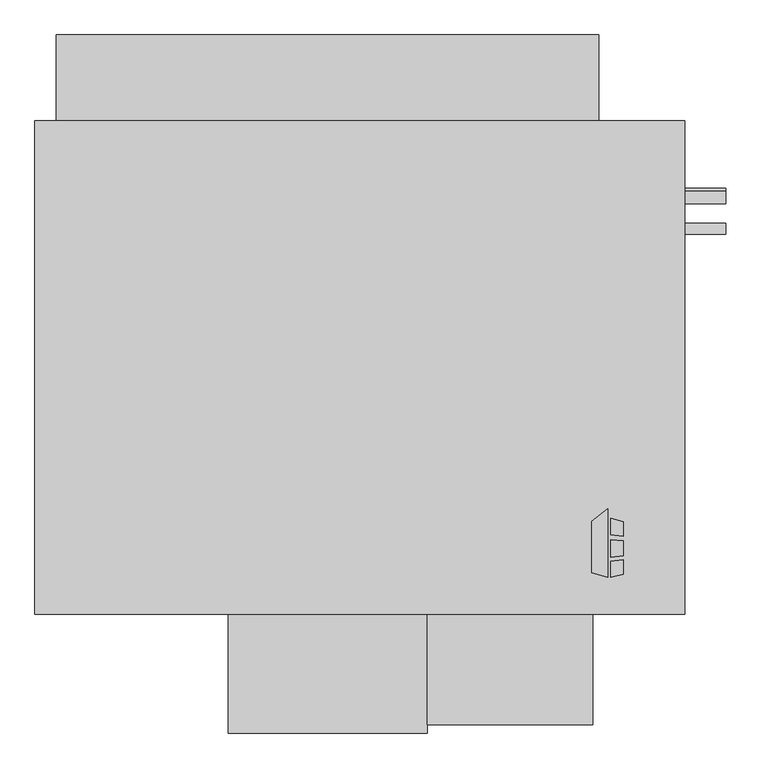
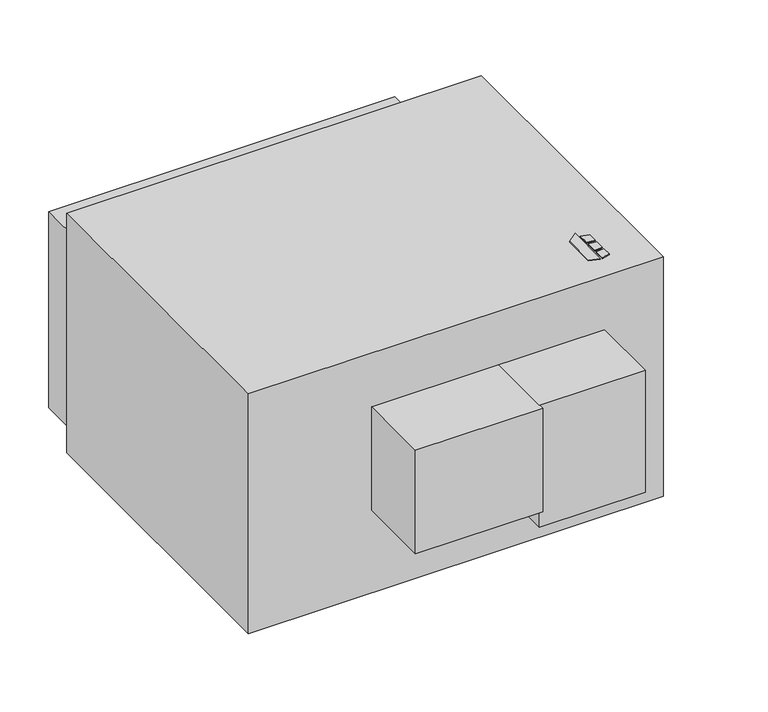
"""IFC4 building model written with IfcOpenShell, lengths in millimetres: proxy geometry, Horizontal_Direct_Drive_Blower_Coil_Unit_-_HDY_-_IEC_-_2-Pipe_Cool-EHeat_RH_2022 : Size 30 - 460v/60Hz/3Ph - 8 Row 30.0kW."""

from ifc_helpers import new_model, si_unit, point, frame, frame_2d, origin, origin_with_axes, place, context, project, spatial, polyline, circle_curve, trimmed, segment, composite_curve, outline, extrude, source, transform, mapped, element, save


def mechanical_equipment_6c92dabb(model_context):
    return source(origin(), model_context, "Body", "SweptSolid", [
        extrude(outline(polyline([(87.0019761, -337.5078476), (119.5602728, -312.0705184), (119.5602728, -454.025), (87.0019761, -443.8054201), (87.0019761, -337.5078476)])), origin_with_axes(), (0.0, 0.0, 1.0), 3.175),
        extrude(outline(polyline([(126.3186058, -365.379852), (126.3186058, -330.8999379), (152.4, -339.0865115), (152.4, -368.5822446), (126.3186058, -365.379852)])), origin_with_axes(), (0.0, 0.0, 1.0), 3.175),
        extrude(outline(polyline([(152.4, -447.0365115), (126.3186058, -454.025), (126.3186058, -420.8036996), (152.4, -417.2618564), (152.4, -447.0365115)])), origin_with_axes(), (0.0, 0.0, 1.0), 3.175),
        extrude(outline(polyline([(152.4, -377.6638277), (152.4, -408.913983), (126.3186058, -411.655248), (126.3186058, -375.7975378), (152.4, -377.6638277)])), origin_with_axes(), (0.0, 0.0, 1.0), 3.175),
        extrude(outline(polyline([(279.4, 492.125), (279.4, -530.225), (-1066.8, -530.225), (-1066.8, 492.125), (279.4, 492.125)])), frame((0.0, 0.0, -822.3058174), z_axis=(0.0, 0.0, 1.0), x_axis=(1.0, 0.0, 0.0)), (0.0, 0.0, 1.0), 822.3058174),
        extrude(outline(polyline([(88.9, -758.825), (-254.0, -758.825), (-254.0, -530.225), (88.9, -530.225), (88.9, -758.825)])), frame((0.0, 0.0, -603.2308174), z_axis=(0.0, 0.0, 1.0), x_axis=(1.0, 0.0, 0.0)), (0.0, 0.0, 1.0), 419.1),
        extrude(outline(composite_curve([segment(trimmed(circle_curve(frame_2d((333.375, -177.8)), 12.7), [point((346.075, -177.8))], [point((320.675, -177.8))], False, "CARTESIAN"), True, "CONTINUOUS"), segment(trimmed(circle_curve(frame_2d((333.375, -177.8)), 12.7), [point((320.675, -177.8))], [point((346.075, -177.8))], False, "CARTESIAN"), True, "CONTINUOUS")], self_intersect=False)), frame((279.4, 0.0, 0.0), z_axis=(1.0, 0.0, 0.0), x_axis=(0.0, 1.0, 0.0)), (0.0, 0.0, 1.0), 85.2932),
        extrude(outline(composite_curve([segment(trimmed(circle_curve(frame_2d((340.130856, -695.3058174)), 12.7), [point((352.830856, -695.3058174))], [point((327.430856, -695.3058174))], False, "CARTESIAN"), True, "CONTINUOUS"), segment(trimmed(circle_curve(frame_2d((340.130856, -695.3058174)), 12.7), [point((327.430856, -695.3058174))], [point((352.830856, -695.3058174))], False, "CARTESIAN"), True, "CONTINUOUS")], self_intersect=False)), frame((279.4, 0.0, 0.0), z_axis=(1.0, 0.0, 0.0), x_axis=(0.0, 1.0, 0.0)), (0.0, 0.0, 1.0), 85.2932),
        extrude(outline(composite_curve([segment(trimmed(circle_curve(frame_2d((268.4630494, -777.8558174)), 11.1125), [point((279.5755494, -777.8558174))], [point((257.3505494, -777.8558174))], False, "CARTESIAN"), True, "CONTINUOUS"), segment(trimmed(circle_curve(frame_2d((268.4630494, -777.8558174)), 11.1125), [point((257.3505494, -777.8558174))], [point((279.5755494, -777.8558174))], False, "CARTESIAN"), True, "CONTINUOUS")], self_intersect=False)), frame((279.4, 0.0, 0.0), z_axis=(1.0, 0.0, 0.0), x_axis=(0.0, 1.0, 0.0)), (0.0, 0.0, 1.0), 85.2932),
        extrude(outline(polyline([(-1022.35, 669.925), (101.6, 669.925), (101.6, 492.125), (-1022.35, 492.125), (-1022.35, 669.925)])), frame((0.0, 0.0, -790.5558174), z_axis=(0.0, 0.0, 1.0), x_axis=(1.0, 0.0, 0.0)), (0.0, 0.0, 1.0), 673.1),
        extrude(outline(polyline([(-254.0, -776.2875), (-666.75, -776.2875), (-666.75, -530.225), (-254.0, -530.225), (-254.0, -776.2875)])), frame((0.0, 0.0, -539.7308174), z_axis=(0.0, 0.0, 1.0), x_axis=(1.0, 0.0, 0.0)), (0.0, 0.0, 1.0), 355.6),
    ])


if __name__ == "__main__":
    model = new_model("IFC4")
    model_context = context("Model", 3, world=origin())
    ifc_project = project(units=[si_unit("LENGTHUNIT", "METRE", prefix="MILLI")], contexts=[model_context])
    site = spatial("IfcSite", under=ifc_project)
    building = spatial("IfcBuilding", under=site)
    placement = place(None, origin())
    mechanical_equipment_shape = mechanical_equipment_6c92dabb(model_context)
    element("IfcBuildingElementProxy", 1, Name="Horizontal_Direct_Drive_Blower_Coil_Unit_-_HDY_-_IEC_-_2-Pipe_Cool-EHeat_RH_2022 : Size 30 - 460v/60Hz/3Ph - 8 Row 30.0kW", ObjectType="Horizontal_Direct_Drive_Blower_Coil_Unit_-_HDY_-_IEC_-_2-Pipe_Cool-EHeat_RH_2022 : Size 30 - 460v/60Hz/3Ph - 8 Row 30.0kW", at=placement, inside=building, context=model_context, shape_type="MappedRepresentation", body=[
        mapped(mechanical_equipment_shape, transform((0.0, 0.0, 0.0), x_axis=(1.0, 0.0, 0.0), y_axis=(0.0, 1.0, 0.0), z_axis=(0.0, 0.0, 1.0))),
    ])
    save(model, "model.ifc")
